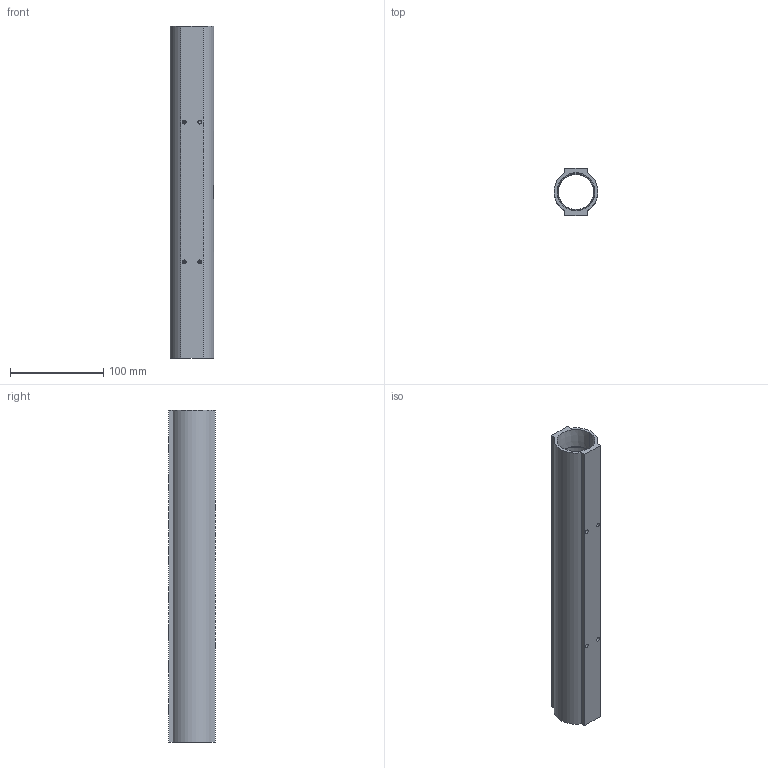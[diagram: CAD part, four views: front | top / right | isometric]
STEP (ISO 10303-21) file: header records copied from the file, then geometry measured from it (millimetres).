
FILE_DESCRIPTION (( 'STEP AP214' ), '1' );
FILE_NAME ('BWM8620R.STEP', '2022-03-15T05:44:58', ( '' ), ( '' ), 'SwSTEP 2.0', 'SolidWorks 2020', '' );
FILE_SCHEMA (( 'AUTOMOTIVE_DESIGN' ));
Length unit declared in the file: millimetre
Products named in the file (1): BWM8620R
Bounding box: 47 x 50 x 356 mm (x, y, z)
Volume: 241828.5 mm3; surface area: 102471.6 mm2
Topology: 1 solids, 1 shells, 222 faces, 595 edges, 390 vertices
Faces by surface type: plane 92, bspline 60, cylinder 42, cone 28
Entity records: 12844 total; most frequent: CARTESIAN_POINT 5860, ORIENTED_EDGE 1174, DIRECTION 741, EDGE_CURVE 587, VERTEX_POINT 390, LINE 283, VECTOR 283, EDGE_LOOP 263
